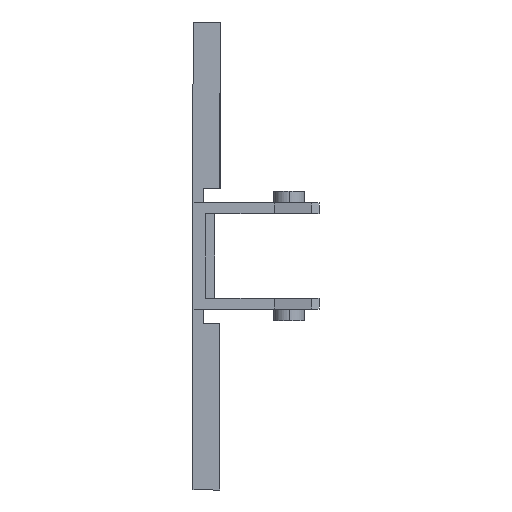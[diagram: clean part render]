
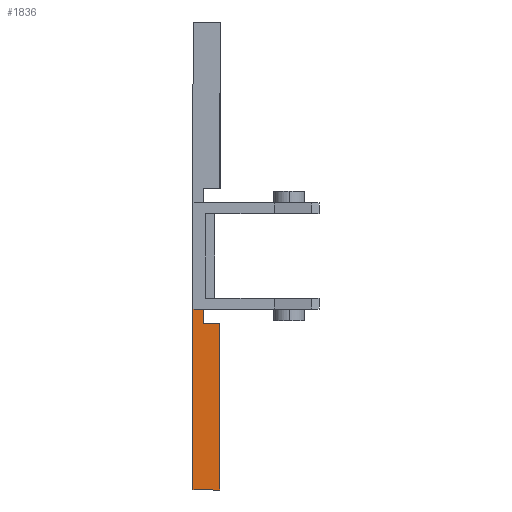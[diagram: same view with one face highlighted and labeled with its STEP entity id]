
A CAD part, front view. The second image highlights one B-rep face of the part: STEP entity #1836.
In plain terms, the highlighted planar face has unit normal (0, -1, 0).
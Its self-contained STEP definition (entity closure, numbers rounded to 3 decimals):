
#106 = EDGE_CURVE ( 'NONE', #734, #737, #2308, .T. ) ;
#108 = EDGE_CURVE ( 'NONE', #735, #740, #2306, .T. ) ;
#109 = EDGE_CURVE ( 'NONE', #734, #736, #2307, .T. ) ;
#156 = AXIS2_PLACEMENT_3D ( 'NONE', #1393, #1391, #1384 ) ;
#241 = EDGE_CURVE ( 'NONE', #739, #737, #2082, .T. ) ;
#242 = EDGE_CURVE ( 'NONE', #736, #735, #2075, .T. ) ;
#272 = EDGE_CURVE ( 'NONE', #740, #739, #2030, .T. ) ;
#649 = CARTESIAN_POINT ( 'NONE',  ( 0., -9., -26. ) ) ;
#650 = CARTESIAN_POINT ( 'NONE',  ( 1.2, -9., -5.9 ) ) ;
#651 = DIRECTION ( 'NONE',  ( 1., 0., 0. ) ) ;
#652 = CARTESIAN_POINT ( 'NONE',  ( 3., -9., -7.5 ) ) ;
#734 = VERTEX_POINT ( 'NONE', #1438 ) ;
#735 = VERTEX_POINT ( 'NONE', #1439 ) ;
#736 = VERTEX_POINT ( 'NONE', #1440 ) ;
#737 = VERTEX_POINT ( 'NONE', #1441 ) ;
#739 = VERTEX_POINT ( 'NONE', #1433 ) ;
#740 = VERTEX_POINT ( 'NONE', #1434 ) ;
#775 = DIRECTION ( 'NONE',  ( 0., 0., 1. ) ) ;
#786 = DIRECTION ( 'NONE',  ( 0., 0., -1. ) ) ;
#956 = DIRECTION ( 'NONE',  ( 0., 0., 1. ) ) ;
#957 = CARTESIAN_POINT ( 'NONE',  ( 3., -9., -26. ) ) ;
#958 = CARTESIAN_POINT ( 'NONE',  ( 1.2, -9., -5. ) ) ;
#971 = CARTESIAN_POINT ( 'NONE',  ( 1.2, -9., -7.5 ) ) ;
#972 = DIRECTION ( 'NONE',  ( -1., 0., 0. ) ) ;
#1384 = DIRECTION ( 'NONE',  ( 0., 0., 1. ) ) ;
#1391 = DIRECTION ( 'NONE',  ( 0., 1., 0. ) ) ;
#1393 = CARTESIAN_POINT ( 'NONE',  ( 1.2, -9., -5. ) ) ;
#1398 = PLANE ( 'NONE',  #156 ) ;
#1433 = CARTESIAN_POINT ( 'NONE',  ( 1.2, -9., -7.5 ) ) ;
#1434 = CARTESIAN_POINT ( 'NONE',  ( 3., -9., -7.5 ) ) ;
#1438 = CARTESIAN_POINT ( 'NONE',  ( 0., -9., -5.9 ) ) ;
#1439 = CARTESIAN_POINT ( 'NONE',  ( 3., -9., -26. ) ) ;
#1440 = CARTESIAN_POINT ( 'NONE',  ( 0., -9., -26. ) ) ;
#1441 = CARTESIAN_POINT ( 'NONE',  ( 1.2, -9., -5.9 ) ) ;
#1592 = FACE_OUTER_BOUND ( 'NONE', #1701, .T. ) ;
#1701 = EDGE_LOOP ( 'NONE', ( #2478, #2479, #2480, #2481, #2482, #2483 ) ) ;
#1836 = ADVANCED_FACE ( 'NONE', ( #1592 ), #1398, .F. ) ;
#2029 = VECTOR ( 'NONE', #972, 1000. ) ;
#2030 = LINE ( 'NONE', #971, #2029 ) ;
#2074 = VECTOR ( 'NONE', #2662, 1000. ) ;
#2075 = LINE ( 'NONE', #957, #2074 ) ;
#2077 = VECTOR ( 'NONE', #956, 1000. ) ;
#2082 = LINE ( 'NONE', #958, #2077 ) ;
#2299 = VECTOR ( 'NONE', #786, 1000. ) ;
#2301 = VECTOR ( 'NONE', #775, 1000. ) ;
#2306 = LINE ( 'NONE', #652, #2301 ) ;
#2307 = LINE ( 'NONE', #649, #2299 ) ;
#2308 = LINE ( 'NONE', #650, #2310 ) ;
#2310 = VECTOR ( 'NONE', #651, 1000. ) ;
#2478 = ORIENTED_EDGE ( 'NONE', *, *, #106, .F. ) ;
#2479 = ORIENTED_EDGE ( 'NONE', *, *, #109, .T. ) ;
#2480 = ORIENTED_EDGE ( 'NONE', *, *, #242, .T. ) ;
#2481 = ORIENTED_EDGE ( 'NONE', *, *, #108, .T. ) ;
#2482 = ORIENTED_EDGE ( 'NONE', *, *, #272, .T. ) ;
#2483 = ORIENTED_EDGE ( 'NONE', *, *, #241, .T. ) ;
#2662 = DIRECTION ( 'NONE',  ( 1., 0., 0. ) ) ;
